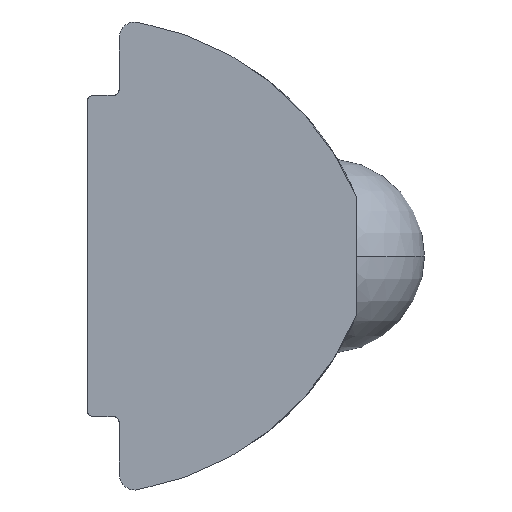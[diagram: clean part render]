
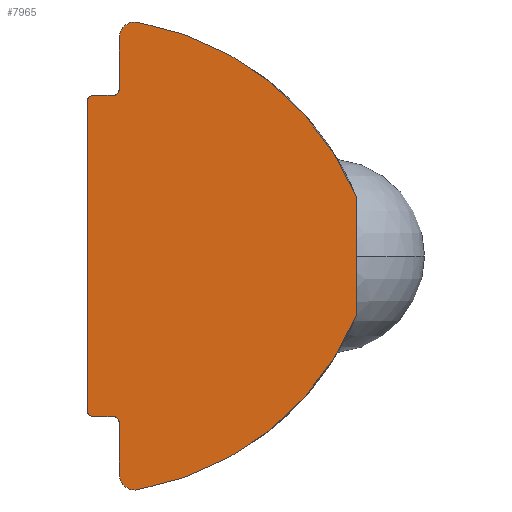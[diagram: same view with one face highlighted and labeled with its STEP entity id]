
A CAD part, left-side view. The second image highlights one B-rep face of the part: STEP entity #7965.
In plain terms, the highlighted planar face has unit normal (-1, 0, 0).
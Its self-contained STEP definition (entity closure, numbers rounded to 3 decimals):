
#19 = AXIS2_PLACEMENT_3D ( 'NONE', #3933, #2261, #4032 ) ;
#23 = EDGE_CURVE ( 'NONE', #8823, #5630, #10152, .T. ) ;
#26 = LINE ( 'NONE', #9735, #10022 ) ;
#178 = VERTEX_POINT ( 'NONE', #8178 ) ;
#326 = DIRECTION ( 'NONE',  ( 0., 0., 1. ) ) ;
#404 = CARTESIAN_POINT ( 'NONE',  ( 0., 5.511, -5.894 ) ) ;
#598 = ORIENTED_EDGE ( 'NONE', *, *, #7912, .F. ) ;
#736 = EDGE_CURVE ( 'NONE', #7508, #8227, #5276, .T. ) ;
#750 = ORIENTED_EDGE ( 'NONE', *, *, #736, .F. ) ;
#984 = CARTESIAN_POINT ( 'NONE',  ( 0., 5.98, -5.5 ) ) ;
#1124 = CARTESIAN_POINT ( 'NONE',  ( 0., 0., -1.5 ) ) ;
#1328 = VERTEX_POINT ( 'NONE', #6784 ) ;
#1378 = VERTEX_POINT ( 'NONE', #5557 ) ;
#1448 = DIRECTION ( 'NONE',  ( 0., 0., -1. ) ) ;
#1449 = DIRECTION ( 'NONE',  ( 1., 0., 0. ) ) ;
#1493 = DIRECTION ( 'NONE',  ( 0., -1., 0. ) ) ;
#1508 = CARTESIAN_POINT ( 'NONE',  ( 0., 6.78, -1.351 ) ) ;
#1521 = VECTOR ( 'NONE', #326, 1000. ) ;
#1547 = CARTESIAN_POINT ( 'NONE',  ( 0., 6.63, 3.9 ) ) ;
#1597 = ORIENTED_EDGE ( 'NONE', *, *, #2973, .T. ) ;
#1616 = EDGE_CURVE ( 'NONE', #178, #3872, #6962, .T. ) ;
#1648 = VERTEX_POINT ( 'NONE', #9431 ) ;
#1763 = AXIS2_PLACEMENT_3D ( 'NONE', #7750, #3814, #6979 ) ;
#1792 = ORIENTED_EDGE ( 'NONE', *, *, #5379, .F. ) ;
#1874 = LINE ( 'NONE', #8201, #8373 ) ;
#1945 = ORIENTED_EDGE ( 'NONE', *, *, #1616, .F. ) ;
#2092 = CIRCLE ( 'NONE', #1763, 7.355 ) ;
#2134 = DIRECTION ( 'NONE',  ( -1., 0., 0. ) ) ;
#2228 = CARTESIAN_POINT ( 'NONE',  ( 0., 5.58, 5.5 ) ) ;
#2261 = DIRECTION ( 'NONE',  ( 1., 0., 0. ) ) ;
#2275 = CARTESIAN_POINT ( 'NONE',  ( 0., 6.78, 4.05 ) ) ;
#2382 = DIRECTION ( 'NONE',  ( 1., 0., 0. ) ) ;
#2435 = CARTESIAN_POINT ( 'NONE',  ( 0., 6.78, 3.9 ) ) ;
#2576 = DIRECTION ( 'NONE',  ( 0., 0., 1. ) ) ;
#2672 = ORIENTED_EDGE ( 'NONE', *, *, #9546, .F. ) ;
#2722 = ORIENTED_EDGE ( 'NONE', *, *, #23, .T. ) ;
#2739 = CARTESIAN_POINT ( 'NONE',  ( 0., 5.98, -4.05 ) ) ;
#2895 = DIRECTION ( 'NONE',  ( 0., 0., 1. ) ) ;
#2919 = AXIS2_PLACEMENT_3D ( 'NONE', #4736, #2382, #7892 ) ;
#2973 = EDGE_CURVE ( 'NONE', #7508, #1648, #3188, .T. ) ;
#3012 = CARTESIAN_POINT ( 'NONE',  ( 0., 0., 1.5 ) ) ;
#3158 = CARTESIAN_POINT ( 'NONE',  ( 0., 5.58, 5.9 ) ) ;
#3188 = CIRCLE ( 'NONE', #3532, 0.15 ) ;
#3246 = CARTESIAN_POINT ( 'NONE',  ( 0., 5.58, 5.5 ) ) ;
#3466 = ORIENTED_EDGE ( 'NONE', *, *, #3800, .F. ) ;
#3532 = AXIS2_PLACEMENT_3D ( 'NONE', #5886, #5154, #8984 ) ;
#3593 = VECTOR ( 'NONE', #2895, 1000. ) ;
#3785 = EDGE_CURVE ( 'NONE', #8227, #5708, #5348, .T. ) ;
#3800 = EDGE_CURVE ( 'NONE', #7929, #5552, #7662, .T. ) ;
#3814 = DIRECTION ( 'NONE',  ( 1., 0., 0. ) ) ;
#3872 = VERTEX_POINT ( 'NONE', #1124 ) ;
#3933 = CARTESIAN_POINT ( 'NONE',  ( 0., 5.58, -5.5 ) ) ;
#3934 = ORIENTED_EDGE ( 'NONE', *, *, #3785, .F. ) ;
#4032 = DIRECTION ( 'NONE',  ( 0., 0., 1. ) ) ;
#4268 = AXIS2_PLACEMENT_3D ( 'NONE', #1508, #4688, #6138 ) ;
#4344 = VERTEX_POINT ( 'NONE', #6702 ) ;
#4428 = EDGE_CURVE ( 'NONE', #4344, #5944, #9132, .T. ) ;
#4454 = EDGE_LOOP ( 'NONE', ( #9153, #2722, #598, #4456, #5603, #3466, #8741, #1945, #1792, #2672, #3934, #750, #1597, #5229, #8790 ) ) ;
#4456 = ORIENTED_EDGE ( 'NONE', *, *, #4428, .T. ) ;
#4523 = AXIS2_PLACEMENT_3D ( 'NONE', #3246, #8631, #7191 ) ;
#4540 = CARTESIAN_POINT ( 'NONE',  ( 0., 5.98, -4.2 ) ) ;
#4625 = DIRECTION ( 'NONE',  ( -1., 0., 0. ) ) ;
#4679 = EDGE_CURVE ( 'NONE', #1328, #7665, #6838, .T. ) ;
#4688 = DIRECTION ( 'NONE',  ( 1., 0., 0. ) ) ;
#4736 = CARTESIAN_POINT ( 'NONE',  ( 0., 5.58, 5.5 ) ) ;
#4785 = CARTESIAN_POINT ( 'NONE',  ( 0., 5.98, 4.2 ) ) ;
#4796 = EDGE_CURVE ( 'NONE', #1328, #1648, #6125, .T. ) ;
#5047 = FACE_OUTER_BOUND ( 'NONE', #4454, .T. ) ;
#5154 = DIRECTION ( 'NONE',  ( 1., 0., 0. ) ) ;
#5229 = ORIENTED_EDGE ( 'NONE', *, *, #4796, .F. ) ;
#5249 = CIRCLE ( 'NONE', #4268, 7.355 ) ;
#5276 = LINE ( 'NONE', #5998, #1521 ) ;
#5348 = CIRCLE ( 'NONE', #4523, 0.4 ) ;
#5379 = EDGE_CURVE ( 'NONE', #1378, #178, #5249, .T. ) ;
#5397 = DIRECTION ( 'NONE',  ( 0., 0., -1. ) ) ;
#5552 = VERTEX_POINT ( 'NONE', #984 ) ;
#5557 = CARTESIAN_POINT ( 'NONE',  ( 0., 5.511, 5.894 ) ) ;
#5603 = ORIENTED_EDGE ( 'NONE', *, *, #6140, .F. ) ;
#5630 = VERTEX_POINT ( 'NONE', #8594 ) ;
#5696 = AXIS2_PLACEMENT_3D ( 'NONE', #9342, #2134, #6091 ) ;
#5708 = VERTEX_POINT ( 'NONE', #3158 ) ;
#5886 = CARTESIAN_POINT ( 'NONE',  ( 0., 6.13, 4.2 ) ) ;
#5944 = VERTEX_POINT ( 'NONE', #4540 ) ;
#5998 = CARTESIAN_POINT ( 'NONE',  ( 0., 5.98, 4.05 ) ) ;
#6003 = AXIS2_PLACEMENT_3D ( 'NONE', #7828, #6327, #10253 ) ;
#6006 = EDGE_CURVE ( 'NONE', #3872, #7929, #2092, .T. ) ;
#6075 = CIRCLE ( 'NONE', #2919, 0.4 ) ;
#6091 = DIRECTION ( 'NONE',  ( 0., 0., -1. ) ) ;
#6125 = LINE ( 'NONE', #2275, #8223 ) ;
#6138 = DIRECTION ( 'NONE',  ( 0., 0., -1. ) ) ;
#6140 = EDGE_CURVE ( 'NONE', #5552, #5944, #8857, .T. ) ;
#6192 = VECTOR ( 'NONE', #1448, 1000. ) ;
#6327 = DIRECTION ( 'NONE',  ( 1., 0., 0. ) ) ;
#6702 = CARTESIAN_POINT ( 'NONE',  ( 0., 6.13, -4.05 ) ) ;
#6784 = CARTESIAN_POINT ( 'NONE',  ( 0., 6.63, 4.05 ) ) ;
#6838 = CIRCLE ( 'NONE', #9466, 0.15 ) ;
#6962 = LINE ( 'NONE', #3012, #6192 ) ;
#6979 = DIRECTION ( 'NONE',  ( 0., 0., 1. ) ) ;
#7045 = CARTESIAN_POINT ( 'NONE',  ( 0., 6.78, -3.9 ) ) ;
#7065 = PLANE ( 'NONE',  #9531 ) ;
#7191 = DIRECTION ( 'NONE',  ( 0., 0., -1. ) ) ;
#7508 = VERTEX_POINT ( 'NONE', #4785 ) ;
#7525 = DIRECTION ( 'NONE',  ( 0., 1., 0. ) ) ;
#7662 = CIRCLE ( 'NONE', #19, 0.4 ) ;
#7665 = VERTEX_POINT ( 'NONE', #2435 ) ;
#7750 = CARTESIAN_POINT ( 'NONE',  ( 0., 6.78, 1.351 ) ) ;
#7828 = CARTESIAN_POINT ( 'NONE',  ( 0., 6.13, -4.2 ) ) ;
#7892 = DIRECTION ( 'NONE',  ( 0., 0., -1. ) ) ;
#7912 = EDGE_CURVE ( 'NONE', #4344, #5630, #1874, .T. ) ;
#7929 = VERTEX_POINT ( 'NONE', #404 ) ;
#7965 = ADVANCED_FACE ( 'NONE', ( #5047 ), #7065, .F. ) ;
#8178 = CARTESIAN_POINT ( 'NONE',  ( 0., 0., 1.5 ) ) ;
#8201 = CARTESIAN_POINT ( 'NONE',  ( 0., 6.78, -4.05 ) ) ;
#8223 = VECTOR ( 'NONE', #1493, 1000. ) ;
#8227 = VERTEX_POINT ( 'NONE', #9280 ) ;
#8373 = VECTOR ( 'NONE', #7525, 1000. ) ;
#8449 = DIRECTION ( 'NONE',  ( 0., 0., -1. ) ) ;
#8594 = CARTESIAN_POINT ( 'NONE',  ( 0., 6.63, -4.05 ) ) ;
#8631 = DIRECTION ( 'NONE',  ( 1., 0., 0. ) ) ;
#8741 = ORIENTED_EDGE ( 'NONE', *, *, #6006, .F. ) ;
#8790 = ORIENTED_EDGE ( 'NONE', *, *, #4679, .T. ) ;
#8823 = VERTEX_POINT ( 'NONE', #7045 ) ;
#8857 = LINE ( 'NONE', #2739, #3593 ) ;
#8984 = DIRECTION ( 'NONE',  ( 0., 0., -1. ) ) ;
#9132 = CIRCLE ( 'NONE', #6003, 0.15 ) ;
#9153 = ORIENTED_EDGE ( 'NONE', *, *, #10044, .F. ) ;
#9280 = CARTESIAN_POINT ( 'NONE',  ( 0., 5.98, 5.5 ) ) ;
#9342 = CARTESIAN_POINT ( 'NONE',  ( 0., 6.63, -3.9 ) ) ;
#9431 = CARTESIAN_POINT ( 'NONE',  ( 0., 6.13, 4.05 ) ) ;
#9466 = AXIS2_PLACEMENT_3D ( 'NONE', #1547, #4625, #5397 ) ;
#9531 = AXIS2_PLACEMENT_3D ( 'NONE', #2228, #1449, #8449 ) ;
#9546 = EDGE_CURVE ( 'NONE', #5708, #1378, #6075, .T. ) ;
#9735 = CARTESIAN_POINT ( 'NONE',  ( 0., 6.78, 4.05 ) ) ;
#10022 = VECTOR ( 'NONE', #2576, 1000. ) ;
#10044 = EDGE_CURVE ( 'NONE', #8823, #7665, #26, .T. ) ;
#10152 = CIRCLE ( 'NONE', #5696, 0.15 ) ;
#10253 = DIRECTION ( 'NONE',  ( 0., 0., -1. ) ) ;
